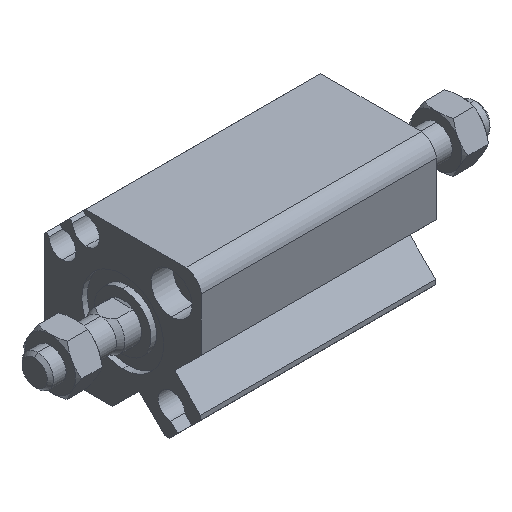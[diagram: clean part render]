
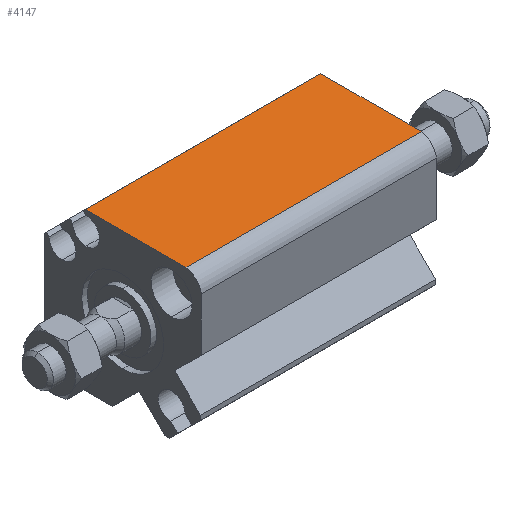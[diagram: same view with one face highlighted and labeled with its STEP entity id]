
A CAD part, isometric view. The second image highlights one B-rep face of the part: STEP entity #4147.
In plain terms, the highlighted planar face has unit normal (0, 0, 1).
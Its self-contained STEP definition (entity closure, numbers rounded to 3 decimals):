
#126 = CARTESIAN_POINT ( 'NONE',  ( 37.4, 5.885, 12.5 ) ) ;
#435 = ORIENTED_EDGE ( 'NONE', *, *, #2064, .F. ) ;
#957 = EDGE_CURVE ( 'NONE', #1270, #2211, #2312, .T. ) ;
#1134 = VERTEX_POINT ( 'NONE', #1790 ) ;
#1270 = VERTEX_POINT ( 'NONE', #2228 ) ;
#1392 = ORIENTED_EDGE ( 'NONE', *, *, #4948, .F. ) ;
#1456 = CARTESIAN_POINT ( 'NONE',  ( 37.4, -10.069, 12.5 ) ) ;
#1664 = DIRECTION ( 'NONE',  ( 0., -1., 0. ) ) ;
#1748 = VECTOR ( 'NONE', #3053, 1000. ) ;
#1790 = CARTESIAN_POINT ( 'NONE',  ( 0., -10.069, 12.5 ) ) ;
#1846 = CARTESIAN_POINT ( 'NONE',  ( 0., 5.885, 12.5 ) ) ;
#2028 = LINE ( 'NONE', #2767, #4469 ) ;
#2037 = CARTESIAN_POINT ( 'NONE',  ( 37.4, 5.885, 12.5 ) ) ;
#2064 = EDGE_CURVE ( 'NONE', #4853, #1134, #4183, .T. ) ;
#2071 = DIRECTION ( 'NONE',  ( 0., 0., -1. ) ) ;
#2211 = VERTEX_POINT ( 'NONE', #2363 ) ;
#2228 = CARTESIAN_POINT ( 'NONE',  ( 37.4, 5.885, 12.5 ) ) ;
#2312 = LINE ( 'NONE', #2037, #4559 ) ;
#2363 = CARTESIAN_POINT ( 'NONE',  ( 0., 5.885, 12.5 ) ) ;
#2409 = CARTESIAN_POINT ( 'NONE',  ( 37.4, -10.069, 12.5 ) ) ;
#2616 = EDGE_CURVE ( 'NONE', #2211, #1134, #2725, .T. ) ;
#2636 = DIRECTION ( 'NONE',  ( 0., -1., 0. ) ) ;
#2688 = DIRECTION ( 'NONE',  ( -1., 0., 0. ) ) ;
#2725 = LINE ( 'NONE', #1846, #3419 ) ;
#2767 = CARTESIAN_POINT ( 'NONE',  ( 37.4, 5.885, 12.5 ) ) ;
#3053 = DIRECTION ( 'NONE',  ( -1., 0., 0. ) ) ;
#3158 = AXIS2_PLACEMENT_3D ( 'NONE', #126, #2071, #1664 ) ;
#3419 = VECTOR ( 'NONE', #2636, 1000. ) ;
#3571 = EDGE_LOOP ( 'NONE', ( #4390, #435, #1392, #4763 ) ) ;
#3580 = FACE_OUTER_BOUND ( 'NONE', #3571, .T. ) ;
#4147 = ADVANCED_FACE ( 'NONE', ( #3580 ), #4748, .F. ) ;
#4183 = LINE ( 'NONE', #1456, #1748 ) ;
#4344 = DIRECTION ( 'NONE',  ( 0., -1., 0. ) ) ;
#4390 = ORIENTED_EDGE ( 'NONE', *, *, #2616, .T. ) ;
#4469 = VECTOR ( 'NONE', #4344, 1000. ) ;
#4559 = VECTOR ( 'NONE', #2688, 1000. ) ;
#4748 = PLANE ( 'NONE',  #3158 ) ;
#4763 = ORIENTED_EDGE ( 'NONE', *, *, #957, .T. ) ;
#4853 = VERTEX_POINT ( 'NONE', #2409 ) ;
#4948 = EDGE_CURVE ( 'NONE', #1270, #4853, #2028, .T. ) ;
